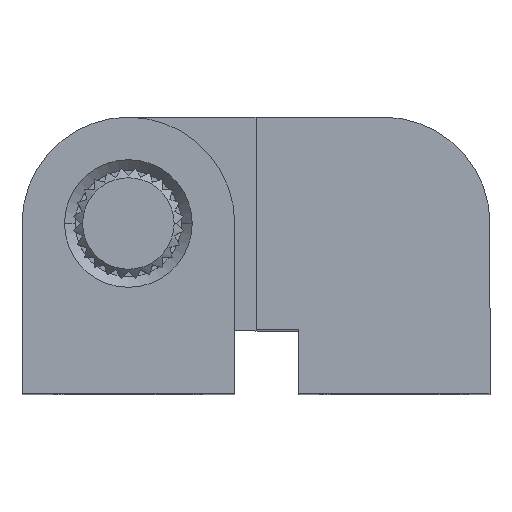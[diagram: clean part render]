
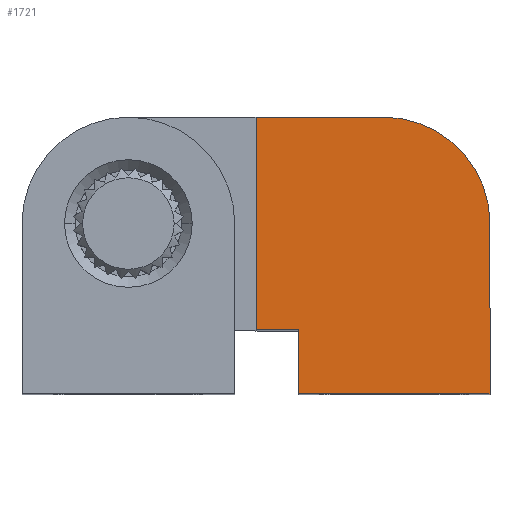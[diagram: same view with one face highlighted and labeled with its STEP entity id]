
A CAD part, top view. The second image highlights one B-rep face of the part: STEP entity #1721.
In plain terms, the highlighted planar face has unit normal (0, 0, 1).
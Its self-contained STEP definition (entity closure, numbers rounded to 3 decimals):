
#47 = AXIS2_PLACEMENT_3D ( 'NONE', #4419, #4895, #5241 ) ;
#71 = CARTESIAN_POINT ( 'NONE',  ( 17., 0., 15. ) ) ;
#83 = ORIENTED_EDGE ( 'NONE', *, *, #1489, .T. ) ;
#128 = FACE_OUTER_BOUND ( 'NONE', #1564, .T. ) ;
#233 = ORIENTED_EDGE ( 'NONE', *, *, #5614, .T. ) ;
#310 = AXIS2_PLACEMENT_3D ( 'NONE', #5510, #5072, #5198 ) ;
#341 = VECTOR ( 'NONE', #1557, 1000. ) ;
#372 = CARTESIAN_POINT ( 'NONE',  ( 8., 0., 15. ) ) ;
#399 = VERTEX_POINT ( 'NONE', #71 ) ;
#466 = CARTESIAN_POINT ( 'NONE',  ( 8., -5., 15. ) ) ;
#509 = ORIENTED_EDGE ( 'NONE', *, *, #4800, .F. ) ;
#606 = LINE ( 'NONE', #372, #2954 ) ;
#662 = VERTEX_POINT ( 'NONE', #1320 ) ;
#816 = CARTESIAN_POINT ( 'NONE',  ( 0., -5., 15. ) ) ;
#955 = DIRECTION ( 'NONE',  ( 0., -1., 0. ) ) ;
#961 = DIRECTION ( 'NONE',  ( 1., 0., 0. ) ) ;
#1002 = EDGE_CURVE ( 'NONE', #1391, #399, #5015, .T. ) ;
#1238 = CARTESIAN_POINT ( 'NONE',  ( 17., 0., 15. ) ) ;
#1320 = CARTESIAN_POINT ( 'NONE',  ( 8., -8., 15. ) ) ;
#1391 = VERTEX_POINT ( 'NONE', #5219 ) ;
#1406 = CARTESIAN_POINT ( 'NONE',  ( 6., 0., 15. ) ) ;
#1489 = EDGE_CURVE ( 'NONE', #399, #4369, #1805, .T. ) ;
#1557 = DIRECTION ( 'NONE',  ( 0., 1., 0. ) ) ;
#1564 = EDGE_LOOP ( 'NONE', ( #3601, #2686, #2749, #509, #233, #4294, #83 ) ) ;
#1572 = LINE ( 'NONE', #5422, #5054 ) ;
#1681 = CARTESIAN_POINT ( 'NONE',  ( 12., 5., 15. ) ) ;
#1721 = ADVANCED_FACE ( 'NONE', ( #128 ), #4301, .T. ) ;
#1805 = CIRCLE ( 'NONE', #310, 5. ) ;
#1877 = VECTOR ( 'NONE', #955, 1000. ) ;
#2151 = DIRECTION ( 'NONE',  ( -1., 0., 0. ) ) ;
#2284 = CARTESIAN_POINT ( 'NONE',  ( 6., -5., 15. ) ) ;
#2430 = VERTEX_POINT ( 'NONE', #2284 ) ;
#2547 = VECTOR ( 'NONE', #2151, 1000. ) ;
#2609 = CARTESIAN_POINT ( 'NONE',  ( 6., 5., 15. ) ) ;
#2686 = ORIENTED_EDGE ( 'NONE', *, *, #4031, .T. ) ;
#2749 = ORIENTED_EDGE ( 'NONE', *, *, #5397, .F. ) ;
#2954 = VECTOR ( 'NONE', #3016, 1000. ) ;
#3016 = DIRECTION ( 'NONE',  ( 0., 1., 0. ) ) ;
#3136 = CARTESIAN_POINT ( 'NONE',  ( 0., 5., 15. ) ) ;
#3175 = LINE ( 'NONE', #1406, #1877 ) ;
#3295 = VECTOR ( 'NONE', #961, 1000. ) ;
#3564 = VERTEX_POINT ( 'NONE', #2609 ) ;
#3601 = ORIENTED_EDGE ( 'NONE', *, *, #5001, .F. ) ;
#3693 = LINE ( 'NONE', #816, #2547 ) ;
#4031 = EDGE_CURVE ( 'NONE', #3564, #2430, #3175, .T. ) ;
#4294 = ORIENTED_EDGE ( 'NONE', *, *, #1002, .T. ) ;
#4301 = PLANE ( 'NONE',  #47 ) ;
#4369 = VERTEX_POINT ( 'NONE', #1681 ) ;
#4419 = CARTESIAN_POINT ( 'NONE',  ( 0., 0., 15. ) ) ;
#4563 = DIRECTION ( 'NONE',  ( 1., 0., 0. ) ) ;
#4583 = LINE ( 'NONE', #3136, #3295 ) ;
#4800 = EDGE_CURVE ( 'NONE', #662, #5515, #606, .T. ) ;
#4895 = DIRECTION ( 'NONE',  ( 0., 0., 1. ) ) ;
#5001 = EDGE_CURVE ( 'NONE', #3564, #4369, #4583, .T. ) ;
#5015 = LINE ( 'NONE', #1238, #341 ) ;
#5054 = VECTOR ( 'NONE', #4563, 1000. ) ;
#5072 = DIRECTION ( 'NONE',  ( 0., 0., 1. ) ) ;
#5198 = DIRECTION ( 'NONE',  ( 1., 0., 0. ) ) ;
#5219 = CARTESIAN_POINT ( 'NONE',  ( 17., -8., 15. ) ) ;
#5241 = DIRECTION ( 'NONE',  ( 1., 0., 0. ) ) ;
#5397 = EDGE_CURVE ( 'NONE', #5515, #2430, #3693, .T. ) ;
#5422 = CARTESIAN_POINT ( 'NONE',  ( 0., -8., 15. ) ) ;
#5510 = CARTESIAN_POINT ( 'NONE',  ( 12., 0., 15. ) ) ;
#5515 = VERTEX_POINT ( 'NONE', #466 ) ;
#5614 = EDGE_CURVE ( 'NONE', #662, #1391, #1572, .T. ) ;
